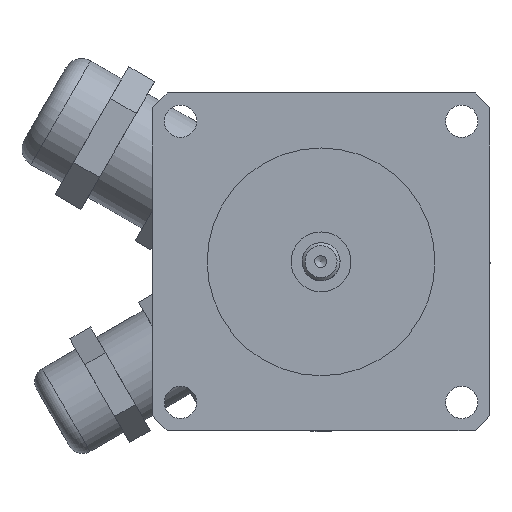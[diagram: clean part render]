
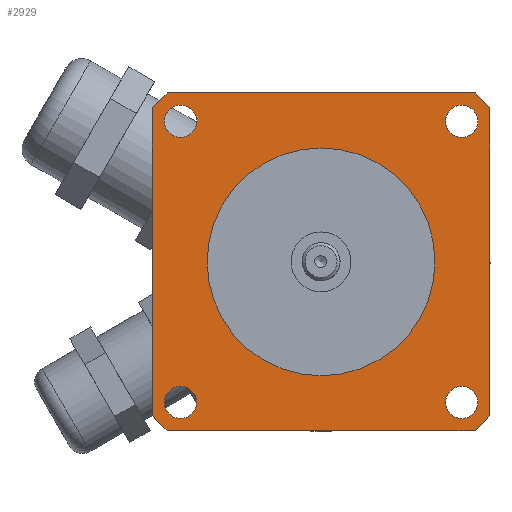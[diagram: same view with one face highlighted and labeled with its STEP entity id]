
A CAD part, top view. The second image highlights one B-rep face of the part: STEP entity #2929.
In plain terms, the highlighted planar face has unit normal (0, 0, 1).
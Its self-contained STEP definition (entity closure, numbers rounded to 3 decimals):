
#2562=CARTESIAN_POINT('',(19.05,0.,42.7));
#2563=VERTEX_POINT('',#2562);
#2564=CARTESIAN_POINT('',(0.,0.,42.7));
#2565=DIRECTION('',(0.0,0.0,-1.0));
#2566=DIRECTION('',(-1.0,0.0,0.0));
#2567=AXIS2_PLACEMENT_3D('',#2564,#2565,#2566);
#2568=CIRCLE('',#2567,19.05);
#2569=EDGE_CURVE('',#2563,#2563,#2568,.T.);
#2612=CARTESIAN_POINT('',(26.211,23.511,42.7));
#2613=VERTEX_POINT('',#2612);
#2614=CARTESIAN_POINT('',(23.511,23.511,42.7));
#2615=DIRECTION('',(0.0,0.0,-1.0));
#2616=DIRECTION('',(-1.0,0.0,0.0));
#2617=AXIS2_PLACEMENT_3D('',#2614,#2615,#2616);
#2618=CIRCLE('',#2617,2.7);
#2619=EDGE_CURVE('',#2613,#2613,#2618,.T.);
#2632=CARTESIAN_POINT('',(26.211,-23.511,42.7));
#2633=VERTEX_POINT('',#2632);
#2634=CARTESIAN_POINT('',(23.511,-23.511,42.7));
#2635=DIRECTION('',(0.0,0.0,-1.0));
#2636=DIRECTION('',(-1.0,0.0,0.0));
#2637=AXIS2_PLACEMENT_3D('',#2634,#2635,#2636);
#2638=CIRCLE('',#2637,2.7);
#2639=EDGE_CURVE('',#2633,#2633,#2638,.T.);
#2652=CARTESIAN_POINT('',(-20.811,23.511,42.7));
#2653=VERTEX_POINT('',#2652);
#2654=CARTESIAN_POINT('',(-23.511,23.511,42.7));
#2655=DIRECTION('',(0.0,0.0,-1.0));
#2656=DIRECTION('',(-1.0,0.0,0.0));
#2657=AXIS2_PLACEMENT_3D('',#2654,#2655,#2656);
#2658=CIRCLE('',#2657,2.7);
#2659=EDGE_CURVE('',#2653,#2653,#2658,.T.);
#2672=CARTESIAN_POINT('',(-20.811,-23.511,42.7));
#2673=VERTEX_POINT('',#2672);
#2674=CARTESIAN_POINT('',(-23.511,-23.511,42.7));
#2675=DIRECTION('',(0.0,0.0,-1.0));
#2676=DIRECTION('',(-1.0,0.0,0.0));
#2677=AXIS2_PLACEMENT_3D('',#2674,#2675,#2676);
#2678=CIRCLE('',#2677,2.7);
#2679=EDGE_CURVE('',#2673,#2673,#2678,.T.);
#2692=CARTESIAN_POINT('',(25.75,28.25,42.7));
#2693=VERTEX_POINT('',#2692);
#2694=CARTESIAN_POINT('',(28.25,25.75,42.7));
#2695=VERTEX_POINT('',#2694);
#2696=CARTESIAN_POINT('',(25.75,28.25,42.7));
#2697=DIRECTION('',(0.707,-0.707,0.0));
#2698=VECTOR('',#2697,3.536);
#2699=LINE('',#2696,#2698);
#2700=EDGE_CURVE('',#2693,#2695,#2699,.T.);
#2723=CARTESIAN_POINT('',(28.25,-25.75,42.7));
#2724=VERTEX_POINT('',#2723);
#2725=CARTESIAN_POINT('',(28.25,25.75,42.7));
#2726=DIRECTION('',(0.0,-1.0,0.0));
#2727=VECTOR('',#2726,51.5);
#2728=LINE('',#2725,#2727);
#2729=EDGE_CURVE('',#2695,#2724,#2728,.T.);
#2749=CARTESIAN_POINT('',(25.75,-28.25,42.7));
#2750=VERTEX_POINT('',#2749);
#2751=CARTESIAN_POINT('',(28.25,-25.75,42.7));
#2752=DIRECTION('',(-0.707,-0.707,0.0));
#2753=VECTOR('',#2752,3.536);
#2754=LINE('',#2751,#2753);
#2755=EDGE_CURVE('',#2724,#2750,#2754,.T.);
#2773=CARTESIAN_POINT('',(-25.75,-28.25,42.7));
#2774=VERTEX_POINT('',#2773);
#2775=CARTESIAN_POINT('',(25.75,-28.25,42.7));
#2776=DIRECTION('',(-1.0,0.0,0.0));
#2777=VECTOR('',#2776,51.5);
#2778=LINE('',#2775,#2777);
#2779=EDGE_CURVE('',#2750,#2774,#2778,.T.);
#2799=CARTESIAN_POINT('',(-28.25,-25.75,42.7));
#2800=VERTEX_POINT('',#2799);
#2801=CARTESIAN_POINT('',(-25.75,-28.25,42.7));
#2802=DIRECTION('',(-0.707,0.707,0.0));
#2803=VECTOR('',#2802,3.536);
#2804=LINE('',#2801,#2803);
#2805=EDGE_CURVE('',#2774,#2800,#2804,.T.);
#2823=CARTESIAN_POINT('',(-28.25,25.75,42.7));
#2824=VERTEX_POINT('',#2823);
#2825=CARTESIAN_POINT('',(-28.25,-25.75,42.7));
#2826=DIRECTION('',(0.0,1.0,0.0));
#2827=VECTOR('',#2826,51.5);
#2828=LINE('',#2825,#2827);
#2829=EDGE_CURVE('',#2800,#2824,#2828,.T.);
#2849=CARTESIAN_POINT('',(-25.75,28.25,42.7));
#2850=VERTEX_POINT('',#2849);
#2851=CARTESIAN_POINT('',(-28.25,25.75,42.7));
#2852=DIRECTION('',(0.707,0.707,0.0));
#2853=VECTOR('',#2852,3.536);
#2854=LINE('',#2851,#2853);
#2855=EDGE_CURVE('',#2824,#2850,#2854,.T.);
#2873=CARTESIAN_POINT('',(-25.75,28.25,42.7));
#2874=DIRECTION('',(1.0,0.0,0.0));
#2875=VECTOR('',#2874,51.5);
#2876=LINE('',#2873,#2875);
#2877=EDGE_CURVE('',#2850,#2693,#2876,.T.);
#2899=CARTESIAN_POINT('',(0.,0.,42.7));
#2900=DIRECTION('',(0.0,0.0,1.0));
#2901=DIRECTION('',(1.0,0.0,0.0));
#2902=AXIS2_PLACEMENT_3D('',#2899,#2900,#2901);
#2903=PLANE('',#2902);
#2904=ORIENTED_EDGE('',*,*,#2700,.F.);
#2905=ORIENTED_EDGE('',*,*,#2877,.F.);
#2906=ORIENTED_EDGE('',*,*,#2855,.F.);
#2907=ORIENTED_EDGE('',*,*,#2829,.F.);
#2908=ORIENTED_EDGE('',*,*,#2805,.F.);
#2909=ORIENTED_EDGE('',*,*,#2779,.F.);
#2910=ORIENTED_EDGE('',*,*,#2755,.F.);
#2911=ORIENTED_EDGE('',*,*,#2729,.F.);
#2912=EDGE_LOOP('',(#2904,#2905,#2906,#2907,#2908,#2909,#2910,#2911));
#2913=FACE_OUTER_BOUND('',#2912,.T.);
#2914=ORIENTED_EDGE('',*,*,#2569,.T.);
#2915=EDGE_LOOP('',(#2914));
#2916=FACE_BOUND('',#2915,.T.);
#2917=ORIENTED_EDGE('',*,*,#2619,.T.);
#2918=EDGE_LOOP('',(#2917));
#2919=FACE_BOUND('',#2918,.T.);
#2920=ORIENTED_EDGE('',*,*,#2639,.T.);
#2921=EDGE_LOOP('',(#2920));
#2922=FACE_BOUND('',#2921,.T.);
#2923=ORIENTED_EDGE('',*,*,#2659,.T.);
#2924=EDGE_LOOP('',(#2923));
#2925=FACE_BOUND('',#2924,.T.);
#2926=ORIENTED_EDGE('',*,*,#2679,.T.);
#2927=EDGE_LOOP('',(#2926));
#2928=FACE_BOUND('',#2927,.T.);
#2929=ADVANCED_FACE('',(#2913,#2916,#2919,#2922,#2925,#2928),#2903,.T.);
